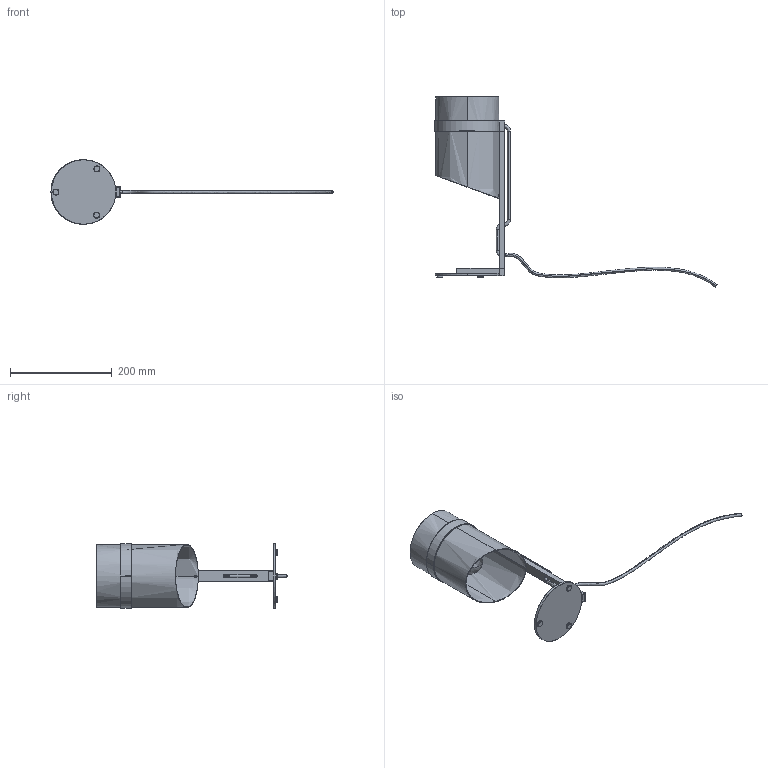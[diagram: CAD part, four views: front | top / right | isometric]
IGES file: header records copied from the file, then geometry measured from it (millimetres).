
Start section: SolidWorks IGES file using analytic representation for surfaces
Global section: file name: E:\_DESIGN\Emy\EMY BIURKOWA_6916\EMY biurkowa 6916.IGS; native system: SolidWorks 2016; preprocessor: SolidWorks 2016; author: Asia; date: 160707.141757; units: millimetre
Bounding box: 555.71 x 374.6 x 127 mm (x, y, z)
Surface area: 259353 mm2 (no closed solid volume)
Topology: 0 solids, 0 shells, 515 faces, 7677 edges, 7658 vertices
Faces by surface type: revolution 291, bspline 224
